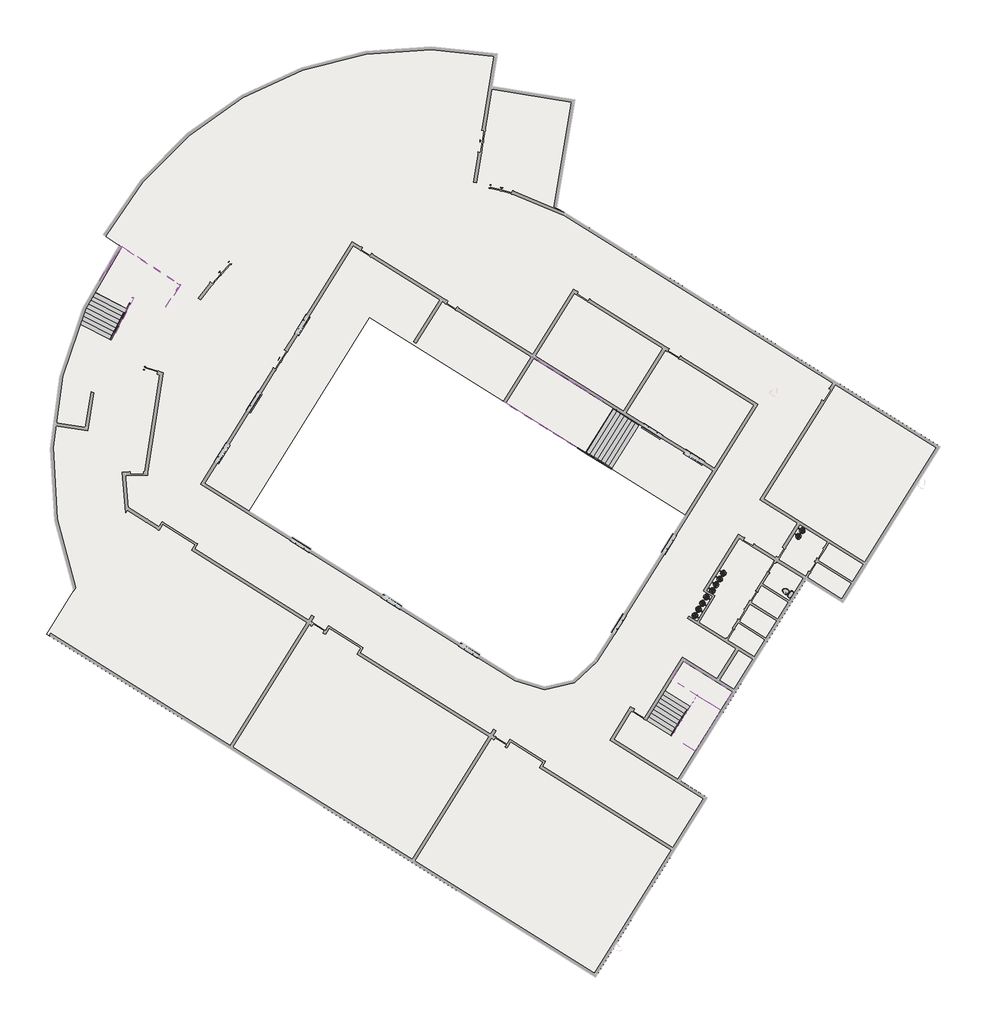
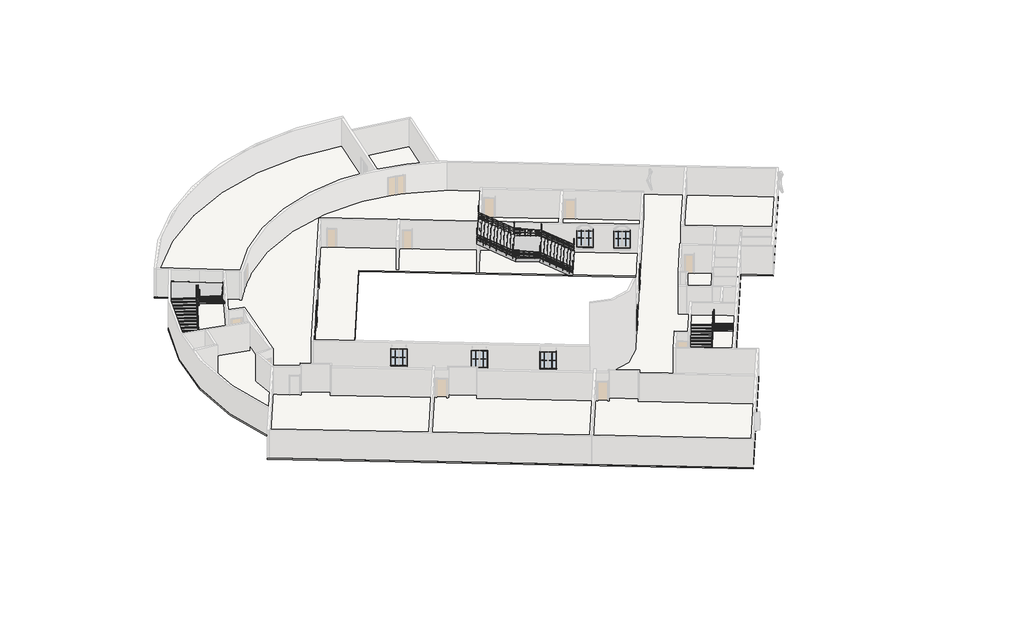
# One storey, part 4 of 4: 40 proxies, 13 members, 11 flow terminals, 4 railings, 4 stair flights, 2 slabs.
"""IFC4 building model written with IfcOpenShell, lengths in millimetres."""

from ifc_helpers import new_model, si_unit, point, frame, frame_2d, origin, place, context, project, spatial, polyline, circle_curve, trimmed, segment, composite_curve, outline, extrude, faceted_brep, transform, mapped, element, save
from components import m_muntin_pattern_2x2_m_muntin_pattern_2x2_d2d4b859, m_muntin_pattern_2x2_m_muntin_pattern_2x2_f3921bb5, m_trim_window_exterior_flat_with_sill_136e302d, m_trim_window_exterior_flat_with_sill_88aaac3a, m_trim_window_interior_flat_picture_frame_c6c50358, m_trim_window_interior_flat_picture_frame_896fcfd1, ada_tank_toilet_4267_toilet_domestic_3d_1f2812d0, ada_tank_toilet_4267_toilet_domestic_3d_e2a5b10f, sink_bathroom_modern_shelf_2_sink_bathroom_modern_shelf_2_e763d6b9, railing_900mm_pipe_284fd88e, railing_900mm_pipe_41d44f0b, railing_900mm_pipe_62cea771, railing_900mm_pipe_8710e27b, railing_900mm_pipe_0febacbe, railing_900mm_pipe_e5f11df8, non_monolithic_landing_3749a595, stair_flight_50mm_tread_13mm_riser_db3eebb3, stair_flight_50mm_tread_13mm_riser_69ac6ef4, stair_flight_50mm_tread_13mm_riser_3233b498, stair_flight_50mm_tread_13mm_riser_8b8bcc91

model = new_model("IFC4")

# Units and contexts
model_context = context("Model", 3, world=origin())
ifc_project = project(units=[si_unit("LENGTHUNIT", "METRE", prefix="MILLI")], contexts=[model_context])

# Site, building, storey
site = spatial("IfcSite", under=ifc_project)
building = spatial("IfcBuilding", under=site)
storey = spatial("IfcBuildingStorey", under=building, Name="\u200fمنفی", Elevation=-3600.0)

# Proxies
placement = place(None, origin())
m_muntin_pattern_2x2_m_muntin_pattern_2x2_shape = m_muntin_pattern_2x2_m_muntin_pattern_2x2_d2d4b859(model_context)
element("IfcBuildingElementProxy", 1, Name="M_Muntin Pattern_2x2 : M_Muntin Pattern_2x2", ObjectType="M_Muntin Pattern_2x2 : M_Muntin Pattern_2x2", at=placement, inside=storey, context=model_context, shape_type="MappedRepresentation", body=[
    mapped(m_muntin_pattern_2x2_m_muntin_pattern_2x2_shape, transform((47216.1575585, -33860.2772011, -2930.15), x_axis=(0.8480480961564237, -0.5299192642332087, 0.0), y_axis=(0.5299192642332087, 0.8480480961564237, 0.0), z_axis=(0.0, 0.0, 1.0))),
])
element("IfcBuildingElementProxy", 2, Name="M_Muntin Pattern_2x2 : M_Muntin Pattern_2x2", ObjectType="M_Muntin Pattern_2x2 : M_Muntin Pattern_2x2", at=placement, inside=storey, context=model_context, shape_type="MappedRepresentation", body=[
    mapped(m_muntin_pattern_2x2_m_muntin_pattern_2x2_shape, transform((44332.7940316, -32058.5517027, -2930.15), x_axis=(0.8480480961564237, -0.5299192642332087, 0.0), y_axis=(0.5299192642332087, 0.8480480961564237, 0.0), z_axis=(0.0, 0.0, 1.0))),
])
element("IfcBuildingElementProxy", 3, Name="M_Muntin Pattern_2x2 : M_Muntin Pattern_2x2", ObjectType="M_Muntin Pattern_2x2 : M_Muntin Pattern_2x2", at=placement, inside=storey, context=model_context, shape_type="MappedRepresentation", body=[
    mapped(m_muntin_pattern_2x2_m_muntin_pattern_2x2_shape, transform((45987.2074956, -39863.2600625, -2930.15), x_axis=(-0.5299192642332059, -0.8480480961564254, 0.0), y_axis=(0.8480480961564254, -0.5299192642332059, 0.0), z_axis=(0.0, 0.0, 1.0))),
])
element("IfcBuildingElementProxy", 4, Name="M_Muntin Pattern_2x2 : M_Muntin Pattern_2x2", ObjectType="M_Muntin Pattern_2x2 : M_Muntin Pattern_2x2", at=placement, inside=storey, context=model_context, shape_type="MappedRepresentation", body=[
    mapped(m_muntin_pattern_2x2_m_muntin_pattern_2x2_shape, transform((42537.766122, -45383.5201987, -2930.15), x_axis=(-0.5299192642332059, -0.8480480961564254, 0.0), y_axis=(0.8480480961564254, -0.5299192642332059, 0.0), z_axis=(0.0, 0.0, 1.0))),
])
element("IfcBuildingElementProxy", 5, Name="M_Muntin Pattern_2x2 : M_Muntin Pattern_2x2", ObjectType="M_Muntin Pattern_2x2 : M_Muntin Pattern_2x2", at=placement, inside=storey, context=model_context, shape_type="MappedRepresentation", body=[
    mapped(m_muntin_pattern_2x2_m_muntin_pattern_2x2_shape, transform((32197.2718735, -47699.295532, -2930.15), x_axis=(-0.8480480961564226, 0.5299192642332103, 0.0), y_axis=(-0.5299192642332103, -0.8480480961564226, 0.0), z_axis=(0.0, 0.0, 1.0))),
])
element("IfcBuildingElementProxy", 6, Name="M_Muntin Pattern_2x2 : M_Muntin Pattern_2x2", ObjectType="M_Muntin Pattern_2x2 : M_Muntin Pattern_2x2", at=placement, inside=storey, context=model_context, shape_type="MappedRepresentation", body=[
    mapped(m_muntin_pattern_2x2_m_muntin_pattern_2x2_shape, transform((26854.5688677, -44360.8041673, -2930.15), x_axis=(-0.8480480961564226, 0.5299192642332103, 0.0), y_axis=(-0.5299192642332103, -0.8480480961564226, 0.0), z_axis=(0.0, 0.0, 1.0))),
])
element("IfcBuildingElementProxy", 7, Name="M_Muntin Pattern_2x2 : M_Muntin Pattern_2x2", ObjectType="M_Muntin Pattern_2x2 : M_Muntin Pattern_2x2", at=placement, inside=storey, context=model_context, shape_type="MappedRepresentation", body=[
    mapped(m_muntin_pattern_2x2_m_muntin_pattern_2x2_shape, transform((20579.0129561, -40439.401612, -2930.15), x_axis=(-0.8480480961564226, 0.5299192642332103, 0.0), y_axis=(-0.5299192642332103, -0.8480480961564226, 0.0), z_axis=(0.0, 0.0, 1.0))),
])
element("IfcBuildingElementProxy", 8, Name="M_Muntin Pattern_2x2 : M_Muntin Pattern_2x2", ObjectType="M_Muntin Pattern_2x2 : M_Muntin Pattern_2x2", at=placement, inside=storey, context=model_context, shape_type="MappedRepresentation", body=[
    mapped(m_muntin_pattern_2x2_m_muntin_pattern_2x2_shape, transform((14655.6227945, -34094.2649616, -2930.15), x_axis=(0.5299192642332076, 0.8480480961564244, 0.0), y_axis=(-0.8480480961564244, 0.5299192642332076, 0.0), z_axis=(0.0, 0.0, 1.0))),
])
element("IfcBuildingElementProxy", 9, Name="M_Muntin Pattern_2x2 : M_Muntin Pattern_2x2", ObjectType="M_Muntin Pattern_2x2 : M_Muntin Pattern_2x2", at=placement, inside=storey, context=model_context, shape_type="MappedRepresentation", body=[
    mapped(m_muntin_pattern_2x2_m_muntin_pattern_2x2_shape, transform((16855.8475796, -30573.1692664, -2930.15), x_axis=(0.5299192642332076, 0.8480480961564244, 0.0), y_axis=(-0.8480480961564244, 0.5299192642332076, 0.0), z_axis=(0.0, 0.0, 1.0))),
])
element("IfcBuildingElementProxy", 10, Name="M_Muntin Pattern_2x2 : M_Muntin Pattern_2x2", ObjectType="M_Muntin Pattern_2x2 : M_Muntin Pattern_2x2", at=placement, inside=storey, context=model_context, shape_type="MappedRepresentation", body=[
    mapped(m_muntin_pattern_2x2_m_muntin_pattern_2x2_shape, transform((20174.2020122, -25262.6920883, -2930.15), x_axis=(0.5299192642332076, 0.8480480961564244, 0.0), y_axis=(-0.8480480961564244, 0.5299192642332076, 0.0), z_axis=(0.0, 0.0, 1.0))),
])
m_muntin_pattern_2x2_m_muntin_pattern_2x2_2_shape = m_muntin_pattern_2x2_m_muntin_pattern_2x2_f3921bb5(model_context)
element("IfcBuildingElementProxy", 11, Name="M_Muntin Pattern_2x2 : M_Muntin Pattern_2x2", ObjectType="M_Muntin Pattern_2x2 : M_Muntin Pattern_2x2", at=placement, inside=storey, context=model_context, shape_type="MappedRepresentation", body=[
    mapped(m_muntin_pattern_2x2_m_muntin_pattern_2x2_2_shape, transform((47807.0986731, -34229.5381924, -2930.15), x_axis=(-0.8480480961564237, 0.5299192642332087, 0.0), y_axis=(-0.5299192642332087, -0.8480480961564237, 0.0), z_axis=(0.0, 0.0, 1.0))),
])
element("IfcBuildingElementProxy", 12, Name="M_Muntin Pattern_2x2 : M_Muntin Pattern_2x2", ObjectType="M_Muntin Pattern_2x2 : M_Muntin Pattern_2x2", at=placement, inside=storey, context=model_context, shape_type="MappedRepresentation", body=[
    mapped(m_muntin_pattern_2x2_m_muntin_pattern_2x2_2_shape, transform((44923.7351462, -32427.812694, -2930.15), x_axis=(-0.8480480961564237, 0.5299192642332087, 0.0), y_axis=(-0.5299192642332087, -0.8480480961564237, 0.0), z_axis=(0.0, 0.0, 1.0))),
])
element("IfcBuildingElementProxy", 13, Name="M_Muntin Pattern_2x2 : M_Muntin Pattern_2x2", ObjectType="M_Muntin Pattern_2x2 : M_Muntin Pattern_2x2", at=placement, inside=storey, context=model_context, shape_type="MappedRepresentation", body=[
    mapped(m_muntin_pattern_2x2_m_muntin_pattern_2x2_2_shape, transform((45617.9465043, -40454.2011771, -2930.15), x_axis=(0.5299192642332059, 0.8480480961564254, 0.0), y_axis=(-0.8480480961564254, 0.5299192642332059, 0.0), z_axis=(0.0, 0.0, 1.0))),
])
element("IfcBuildingElementProxy", 14, Name="M_Muntin Pattern_2x2 : M_Muntin Pattern_2x2", ObjectType="M_Muntin Pattern_2x2 : M_Muntin Pattern_2x2", at=placement, inside=storey, context=model_context, shape_type="MappedRepresentation", body=[
    mapped(m_muntin_pattern_2x2_m_muntin_pattern_2x2_2_shape, transform((42168.5051307, -45974.4613133, -2930.15), x_axis=(0.5299192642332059, 0.8480480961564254, 0.0), y_axis=(-0.8480480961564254, 0.5299192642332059, 0.0), z_axis=(0.0, 0.0, 1.0))),
])
element("IfcBuildingElementProxy", 15, Name="M_Muntin Pattern_2x2 : M_Muntin Pattern_2x2", ObjectType="M_Muntin Pattern_2x2 : M_Muntin Pattern_2x2", at=placement, inside=storey, context=model_context, shape_type="MappedRepresentation", body=[
    mapped(m_muntin_pattern_2x2_m_muntin_pattern_2x2_2_shape, transform((31606.3307589, -47330.0345407, -2930.15), x_axis=(0.8480480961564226, -0.5299192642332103, 0.0), y_axis=(0.5299192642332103, 0.8480480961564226, 0.0), z_axis=(0.0, 0.0, 1.0))),
])
element("IfcBuildingElementProxy", 16, Name="M_Muntin Pattern_2x2 : M_Muntin Pattern_2x2", ObjectType="M_Muntin Pattern_2x2 : M_Muntin Pattern_2x2", at=placement, inside=storey, context=model_context, shape_type="MappedRepresentation", body=[
    mapped(m_muntin_pattern_2x2_m_muntin_pattern_2x2_2_shape, transform((26263.6277531, -43991.543176, -2930.15), x_axis=(0.8480480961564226, -0.5299192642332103, 0.0), y_axis=(0.5299192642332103, 0.8480480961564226, 0.0), z_axis=(0.0, 0.0, 1.0))),
])
element("IfcBuildingElementProxy", 17, Name="M_Muntin Pattern_2x2 : M_Muntin Pattern_2x2", ObjectType="M_Muntin Pattern_2x2 : M_Muntin Pattern_2x2", at=placement, inside=storey, context=model_context, shape_type="MappedRepresentation", body=[
    mapped(m_muntin_pattern_2x2_m_muntin_pattern_2x2_2_shape, transform((19988.0718415, -40070.1406207, -2930.15), x_axis=(0.8480480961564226, -0.5299192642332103, 0.0), y_axis=(0.5299192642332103, 0.8480480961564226, 0.0), z_axis=(0.0, 0.0, 1.0))),
])
element("IfcBuildingElementProxy", 18, Name="M_Muntin Pattern_2x2 : M_Muntin Pattern_2x2", ObjectType="M_Muntin Pattern_2x2 : M_Muntin Pattern_2x2", at=placement, inside=storey, context=model_context, shape_type="MappedRepresentation", body=[
    mapped(m_muntin_pattern_2x2_m_muntin_pattern_2x2_2_shape, transform((15024.8837858, -33503.323847, -2930.15), x_axis=(-0.5299192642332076, -0.8480480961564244, 0.0), y_axis=(0.8480480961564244, -0.5299192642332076, 0.0), z_axis=(0.0, 0.0, 1.0))),
])
element("IfcBuildingElementProxy", 19, Name="M_Muntin Pattern_2x2 : M_Muntin Pattern_2x2", ObjectType="M_Muntin Pattern_2x2 : M_Muntin Pattern_2x2", at=placement, inside=storey, context=model_context, shape_type="MappedRepresentation", body=[
    mapped(m_muntin_pattern_2x2_m_muntin_pattern_2x2_2_shape, transform((17225.1085709, -29982.2281518, -2930.15), x_axis=(-0.5299192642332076, -0.8480480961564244, 0.0), y_axis=(0.8480480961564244, -0.5299192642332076, 0.0), z_axis=(0.0, 0.0, 1.0))),
])
element("IfcBuildingElementProxy", 20, Name="M_Muntin Pattern_2x2 : M_Muntin Pattern_2x2", ObjectType="M_Muntin Pattern_2x2 : M_Muntin Pattern_2x2", at=placement, inside=storey, context=model_context, shape_type="MappedRepresentation", body=[
    mapped(m_muntin_pattern_2x2_m_muntin_pattern_2x2_2_shape, transform((20543.4630035, -24671.7509736, -2930.15), x_axis=(-0.5299192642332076, -0.8480480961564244, 0.0), y_axis=(0.8480480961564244, -0.5299192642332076, 0.0), z_axis=(0.0, 0.0, 1.0))),
])
m_trim_window_exterior_flat_with_sill_shape = m_trim_window_exterior_flat_with_sill_136e302d(model_context)
element("IfcBuildingElementProxy", 21, Name="M_Trim-Window-Exterior-Flat : with Sill", ObjectType="M_Trim-Window-Exterior-Flat : with Sill", at=placement, inside=storey, context=model_context, shape_type="MappedRepresentation", body=[
    mapped(m_trim_window_exterior_flat_with_sill_shape, transform((45810.6546581, -40163.7781008, -1200.0), x_axis=(0.5299192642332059, 0.8480480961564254, 0.0), y_axis=(0.0, 0.0, 1.0), z_axis=(0.8480480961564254, -0.5299192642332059, 0.0))),
])
element("IfcBuildingElementProxy", 22, Name="M_Trim-Window-Exterior-Flat : with Sill", ObjectType="M_Trim-Window-Exterior-Flat : with Sill", at=placement, inside=storey, context=model_context, shape_type="MappedRepresentation", body=[
    mapped(m_trim_window_exterior_flat_with_sill_shape, transform((42361.2132844, -45684.038237, -1200.0), x_axis=(0.5299192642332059, 0.8480480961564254, 0.0), y_axis=(0.0, 0.0, 1.0), z_axis=(0.8480480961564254, -0.5299192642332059, 0.0))),
])
element("IfcBuildingElementProxy", 23, Name="M_Trim-Window-Exterior-Flat : with Sill", ObjectType="M_Trim-Window-Exterior-Flat : with Sill", at=placement, inside=storey, context=model_context, shape_type="MappedRepresentation", body=[
    mapped(m_trim_window_exterior_flat_with_sill_shape, transform((31896.7538352, -47522.7426945, -1200.0), x_axis=(0.8480480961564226, -0.5299192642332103, 0.0), y_axis=(0.0, 0.0, 1.0), z_axis=(-0.5299192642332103, -0.8480480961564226, 0.0))),
])
element("IfcBuildingElementProxy", 24, Name="M_Trim-Window-Exterior-Flat : with Sill", ObjectType="M_Trim-Window-Exterior-Flat : with Sill", at=placement, inside=storey, context=model_context, shape_type="MappedRepresentation", body=[
    mapped(m_trim_window_exterior_flat_with_sill_shape, transform((26554.0508294, -44184.2513298, -1200.0), x_axis=(0.8480480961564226, -0.5299192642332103, 0.0), y_axis=(0.0, 0.0, 1.0), z_axis=(-0.5299192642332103, -0.8480480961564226, 0.0))),
])
element("IfcBuildingElementProxy", 25, Name="M_Trim-Window-Exterior-Flat : with Sill", ObjectType="M_Trim-Window-Exterior-Flat : with Sill", at=placement, inside=storey, context=model_context, shape_type="MappedRepresentation", body=[
    mapped(m_trim_window_exterior_flat_with_sill_shape, transform((20278.4949178, -40262.8487745, -1200.0), x_axis=(0.8480480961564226, -0.5299192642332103, 0.0), y_axis=(0.0, 0.0, 1.0), z_axis=(-0.5299192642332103, -0.8480480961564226, 0.0))),
])
m_trim_window_exterior_flat_with_sill_2_shape = m_trim_window_exterior_flat_with_sill_88aaac3a(model_context)
element("IfcBuildingElementProxy", 26, Name="M_Trim-Window-Exterior-Flat : with Sill", ObjectType="M_Trim-Window-Exterior-Flat : with Sill", at=placement, inside=storey, context=model_context, shape_type="MappedRepresentation", body=[
    mapped(m_trim_window_exterior_flat_with_sill_2_shape, transform((47516.6755968, -34036.8300387, -1200.0), x_axis=(0.8480480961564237, -0.5299192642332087, 0.0), y_axis=(0.0, 0.0, -1.0), z_axis=(0.5299192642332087, 0.8480480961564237, 0.0))),
])
element("IfcBuildingElementProxy", 27, Name="M_Trim-Window-Exterior-Flat : with Sill", ObjectType="M_Trim-Window-Exterior-Flat : with Sill", at=placement, inside=storey, context=model_context, shape_type="MappedRepresentation", body=[
    mapped(m_trim_window_exterior_flat_with_sill_2_shape, transform((44633.3120699, -32235.1045403, -1200.0), x_axis=(0.8480480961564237, -0.5299192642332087, 0.0), y_axis=(0.0, 0.0, -1.0), z_axis=(0.5299192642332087, 0.8480480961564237, 0.0))),
])
element("IfcBuildingElementProxy", 28, Name="M_Trim-Window-Exterior-Flat : with Sill", ObjectType="M_Trim-Window-Exterior-Flat : with Sill", at=placement, inside=storey, context=model_context, shape_type="MappedRepresentation", body=[
    mapped(m_trim_window_exterior_flat_with_sill_2_shape, transform((14832.175632, -33793.7469233, -1200.0), x_axis=(0.5299192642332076, 0.8480480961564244, 0.0), y_axis=(0.0, 0.0, -1.0), z_axis=(-0.8480480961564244, 0.5299192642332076, 0.0))),
])
element("IfcBuildingElementProxy", 29, Name="M_Trim-Window-Exterior-Flat : with Sill", ObjectType="M_Trim-Window-Exterior-Flat : with Sill", at=placement, inside=storey, context=model_context, shape_type="MappedRepresentation", body=[
    mapped(m_trim_window_exterior_flat_with_sill_2_shape, transform((17032.4004171, -30272.6512281, -1200.0), x_axis=(0.5299192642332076, 0.8480480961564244, 0.0), y_axis=(0.0, 0.0, -1.0), z_axis=(-0.8480480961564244, 0.5299192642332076, 0.0))),
])
element("IfcBuildingElementProxy", 30, Name="M_Trim-Window-Exterior-Flat : with Sill", ObjectType="M_Trim-Window-Exterior-Flat : with Sill", at=placement, inside=storey, context=model_context, shape_type="MappedRepresentation", body=[
    mapped(m_trim_window_exterior_flat_with_sill_2_shape, transform((20350.7548498, -24962.17405, -1200.0), x_axis=(0.5299192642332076, 0.8480480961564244, 0.0), y_axis=(0.0, 0.0, -1.0), z_axis=(-0.8480480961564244, 0.5299192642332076, 0.0))),
])
m_trim_window_interior_flat_picture_frame_shape = m_trim_window_interior_flat_picture_frame_c6c50358(model_context)
element("IfcBuildingElementProxy", 31, Name="M_Trim-Window-Interior-Flat : Picture Frame", ObjectType="M_Trim-Window-Interior-Flat : Picture Frame", at=placement, inside=storey, context=model_context, shape_type="MappedRepresentation", body=[
    mapped(m_trim_window_interior_flat_picture_frame_shape, transform((45641.0450388, -40057.794248, -1200.0), x_axis=(-0.5299192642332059, -0.8480480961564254, 0.0), y_axis=(0.0, 0.0, 1.0), z_axis=(-0.8480480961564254, 0.5299192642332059, 0.0))),
])
element("IfcBuildingElementProxy", 32, Name="M_Trim-Window-Interior-Flat : Picture Frame", ObjectType="M_Trim-Window-Interior-Flat : Picture Frame", at=placement, inside=storey, context=model_context, shape_type="MappedRepresentation", body=[
    mapped(m_trim_window_interior_flat_picture_frame_shape, transform((42191.6036652, -45578.0543841, -1200.0), x_axis=(-0.5299192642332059, -0.8480480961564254, 0.0), y_axis=(0.0, 0.0, 1.0), z_axis=(-0.8480480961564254, 0.5299192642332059, 0.0))),
])
element("IfcBuildingElementProxy", 33, Name="M_Trim-Window-Interior-Flat : Picture Frame", ObjectType="M_Trim-Window-Interior-Flat : Picture Frame", at=placement, inside=storey, context=model_context, shape_type="MappedRepresentation", body=[
    mapped(m_trim_window_interior_flat_picture_frame_shape, transform((32002.737688, -47353.1330752, -1200.0), x_axis=(-0.8480480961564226, 0.5299192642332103, 0.0), y_axis=(0.0, 0.0, 1.0), z_axis=(0.5299192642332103, 0.8480480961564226, 0.0))),
])
element("IfcBuildingElementProxy", 34, Name="M_Trim-Window-Interior-Flat : Picture Frame", ObjectType="M_Trim-Window-Interior-Flat : Picture Frame", at=placement, inside=storey, context=model_context, shape_type="MappedRepresentation", body=[
    mapped(m_trim_window_interior_flat_picture_frame_shape, transform((26660.0346822, -44014.6417106, -1200.0), x_axis=(-0.8480480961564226, 0.5299192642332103, 0.0), y_axis=(0.0, 0.0, 1.0), z_axis=(0.5299192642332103, 0.8480480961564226, 0.0))),
])
element("IfcBuildingElementProxy", 35, Name="M_Trim-Window-Interior-Flat : Picture Frame", ObjectType="M_Trim-Window-Interior-Flat : Picture Frame", at=placement, inside=storey, context=model_context, shape_type="MappedRepresentation", body=[
    mapped(m_trim_window_interior_flat_picture_frame_shape, transform((20384.4787707, -40093.2391552, -1200.0), x_axis=(-0.8480480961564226, 0.5299192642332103, 0.0), y_axis=(0.0, 0.0, 1.0), z_axis=(0.5299192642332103, 0.8480480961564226, 0.0))),
])
m_trim_window_interior_flat_picture_frame_2_shape = m_trim_window_interior_flat_picture_frame_896fcfd1(model_context)
element("IfcBuildingElementProxy", 36, Name="M_Trim-Window-Interior-Flat : Picture Frame", ObjectType="M_Trim-Window-Interior-Flat : Picture Frame", at=placement, inside=storey, context=model_context, shape_type="MappedRepresentation", body=[
    mapped(m_trim_window_interior_flat_picture_frame_2_shape, transform((47410.691744, -34206.4396579, -1200.0), x_axis=(-0.8480480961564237, 0.5299192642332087, 0.0), y_axis=(0.0, 0.0, -1.0), z_axis=(-0.5299192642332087, -0.8480480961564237, 0.0))),
])
element("IfcBuildingElementProxy", 37, Name="M_Trim-Window-Interior-Flat : Picture Frame", ObjectType="M_Trim-Window-Interior-Flat : Picture Frame", at=placement, inside=storey, context=model_context, shape_type="MappedRepresentation", body=[
    mapped(m_trim_window_interior_flat_picture_frame_2_shape, transform((44527.328217, -32404.7141595, -1200.0), x_axis=(-0.8480480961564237, 0.5299192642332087, 0.0), y_axis=(0.0, 0.0, -1.0), z_axis=(-0.5299192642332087, -0.8480480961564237, 0.0))),
])
element("IfcBuildingElementProxy", 38, Name="M_Trim-Window-Interior-Flat : Picture Frame", ObjectType="M_Trim-Window-Interior-Flat : Picture Frame", at=placement, inside=storey, context=model_context, shape_type="MappedRepresentation", body=[
    mapped(m_trim_window_interior_flat_picture_frame_2_shape, transform((15001.7852513, -33899.7307762, -1200.0), x_axis=(-0.5299192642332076, -0.8480480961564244, 0.0), y_axis=(0.0, 0.0, -1.0), z_axis=(0.8480480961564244, -0.5299192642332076, 0.0))),
])
element("IfcBuildingElementProxy", 39, Name="M_Trim-Window-Interior-Flat : Picture Frame", ObjectType="M_Trim-Window-Interior-Flat : Picture Frame", at=placement, inside=storey, context=model_context, shape_type="MappedRepresentation", body=[
    mapped(m_trim_window_interior_flat_picture_frame_2_shape, transform((17202.0100364, -30378.6350809, -1200.0), x_axis=(-0.5299192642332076, -0.8480480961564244, 0.0), y_axis=(0.0, 0.0, -1.0), z_axis=(0.8480480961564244, -0.5299192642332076, 0.0))),
])
element("IfcBuildingElementProxy", 40, Name="M_Trim-Window-Interior-Flat : Picture Frame", ObjectType="M_Trim-Window-Interior-Flat : Picture Frame", at=placement, inside=storey, context=model_context, shape_type="MappedRepresentation", body=[
    mapped(m_trim_window_interior_flat_picture_frame_2_shape, transform((20520.364469, -25068.1579028, -1200.0), x_axis=(-0.5299192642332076, -0.8480480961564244, 0.0), y_axis=(0.0, 0.0, -1.0), z_axis=(0.8480480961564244, -0.5299192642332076, 0.0))),
])

# Flow terminals
ada_tank_toilet_4267_toilet_domestic_3d_shape = ada_tank_toilet_4267_toilet_domestic_3d_1f2812d0(model_context)
ada_tank_toilet_4267_toilet_domestic_3d_2_shape = ada_tank_toilet_4267_toilet_domestic_3d_e2a5b10f(model_context)
element("IfcFlowTerminal", 41, ObjectType="ADA_Tank_Toilet_4267 : Toilet-Domestic-3D", at=placement, inside=storey, context=model_context, shape_type="MappedRepresentation", body=[
    mapped(ada_tank_toilet_4267_toilet_domestic_3d_shape, transform((53818.4403957, -43398.8303799, -3600.0), x_axis=(-0.5299192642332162, -0.8480480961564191, 0.0), y_axis=(0.8480480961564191, -0.5299192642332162, 0.0), z_axis=(0.0, 0.0, 1.0))),
    mapped(ada_tank_toilet_4267_toilet_domestic_3d_2_shape, transform((53818.4403957, -43398.8303799, -3600.0), x_axis=(-0.5299192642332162, -0.8480480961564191, 0.0), y_axis=(0.8480480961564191, -0.5299192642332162, 0.0), z_axis=(0.0, 0.0, 1.0))),
])
sink_bathroom_modern_shelf_2_sink_bathroom_modern_shelf_2_shape = sink_bathroom_modern_shelf_2_sink_bathroom_modern_shelf_2_e763d6b9(model_context)
element("IfcFlowTerminal", 42, ObjectType="Sink Bathroom Modern - Shelf (2) : Sink Bathroom Modern - Shelf (2)", at=placement, inside=storey, context=model_context, shape_type="MappedRepresentation", body=[
    mapped(sink_bathroom_modern_shelf_2_sink_bathroom_modern_shelf_2_shape, transform((48423.6751802, -43152.9748104, -3600.0), x_axis=(0.5299192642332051, 0.8480480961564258, 0.0), y_axis=(-0.8480480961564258, 0.5299192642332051, 0.0), z_axis=(0.0, 0.0, 1.0))),
])
element("IfcFlowTerminal", 43, ObjectType="Sink Bathroom Modern - Shelf (2) : Sink Bathroom Modern - Shelf (2)", at=placement, inside=storey, context=model_context, shape_type="MappedRepresentation", body=[
    mapped(sink_bathroom_modern_shelf_2_sink_bathroom_modern_shelf_2_shape, transform((48672.4432724, -42754.8626427, -3600.0), x_axis=(0.5299192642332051, 0.8480480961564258, 0.0), y_axis=(-0.8480480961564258, 0.5299192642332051, 0.0), z_axis=(0.0, 0.0, 1.0))),
])
element("IfcFlowTerminal", 44, ObjectType="Sink Bathroom Modern - Shelf (2) : Sink Bathroom Modern - Shelf (2)", at=placement, inside=storey, context=model_context, shape_type="MappedRepresentation", body=[
    mapped(sink_bathroom_modern_shelf_2_sink_bathroom_modern_shelf_2_shape, transform((48921.5057201, -42356.2794078, -3600.0), x_axis=(0.5299192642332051, 0.8480480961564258, 0.0), y_axis=(-0.8480480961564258, 0.5299192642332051, 0.0), z_axis=(0.0, 0.0, 1.0))),
])
element("IfcFlowTerminal", 45, ObjectType="Sink Bathroom Modern - Shelf (2) : Sink Bathroom Modern - Shelf (2)", at=placement, inside=storey, context=model_context, shape_type="MappedRepresentation", body=[
    mapped(sink_bathroom_modern_shelf_2_sink_bathroom_modern_shelf_2_shape, transform((49170.5681678, -41957.6961729, -3600.0), x_axis=(0.5299192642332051, 0.8480480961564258, 0.0), y_axis=(-0.8480480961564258, 0.5299192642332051, 0.0), z_axis=(0.0, 0.0, 1.0))),
])
element("IfcFlowTerminal", 46, ObjectType="Sink Bathroom Modern - Shelf (2) : Sink Bathroom Modern - Shelf (2)", at=placement, inside=storey, context=model_context, shape_type="MappedRepresentation", body=[
    mapped(sink_bathroom_modern_shelf_2_sink_bathroom_modern_shelf_2_shape, transform((48603.6166127, -43920.0987445, -3600.0), x_axis=(-0.5299192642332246, -0.8480480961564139, 0.0), y_axis=(0.8480480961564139, -0.5299192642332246, 0.0), z_axis=(0.0, 0.0, 1.0))),
])
element("IfcFlowTerminal", 47, ObjectType="Sink Bathroom Modern - Shelf (2) : Sink Bathroom Modern - Shelf (2)", at=placement, inside=storey, context=model_context, shape_type="MappedRepresentation", body=[
    mapped(sink_bathroom_modern_shelf_2_sink_bathroom_modern_shelf_2_shape, transform((48338.6569806, -44344.1227926, -3600.0), x_axis=(-0.5299192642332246, -0.8480480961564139, 0.0), y_axis=(0.8480480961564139, -0.5299192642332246, 0.0), z_axis=(0.0, 0.0, 1.0))),
])
element("IfcFlowTerminal", 48, ObjectType="Sink Bathroom Modern - Shelf (2) : Sink Bathroom Modern - Shelf (2)", at=placement, inside=storey, context=model_context, shape_type="MappedRepresentation", body=[
    mapped(sink_bathroom_modern_shelf_2_sink_bathroom_modern_shelf_2_shape, transform((48073.6973485, -44768.1468407, -3600.0), x_axis=(-0.5299192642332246, -0.8480480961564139, 0.0), y_axis=(0.8480480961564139, -0.5299192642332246, 0.0), z_axis=(0.0, 0.0, 1.0))),
])
element("IfcFlowTerminal", 49, ObjectType="Sink Bathroom Modern - Shelf (2) : Sink Bathroom Modern - Shelf (2)", at=placement, inside=storey, context=model_context, shape_type="MappedRepresentation", body=[
    mapped(sink_bathroom_modern_shelf_2_sink_bathroom_modern_shelf_2_shape, transform((47809.069349, -45192.3781158, -3600.0), x_axis=(-0.5299192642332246, -0.8480480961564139, 0.0), y_axis=(0.8480480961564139, -0.5299192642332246, 0.0), z_axis=(0.0, 0.0, 1.0))),
])
element("IfcFlowTerminal", 50, ObjectType="Sink Bathroom Modern - Shelf (2) : Sink Bathroom Modern - Shelf (2)", at=placement, inside=storey, context=model_context, shape_type="MappedRepresentation", body=[
    mapped(sink_bathroom_modern_shelf_2_sink_bathroom_modern_shelf_2_shape, transform((54355.292849, -39424.2198016, -3600.0), x_axis=(0.5299192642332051, 0.8480480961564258, 0.0), y_axis=(-0.8480480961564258, 0.5299192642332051, 0.0), z_axis=(0.0, 0.0, 1.0))),
])
element("IfcFlowTerminal", 51, ObjectType="Sink Bathroom Modern - Shelf (2) : Sink Bathroom Modern - Shelf (2)", at=placement, inside=storey, context=model_context, shape_type="MappedRepresentation", body=[
    mapped(sink_bathroom_modern_shelf_2_sink_bathroom_modern_shelf_2_shape, transform((54604.3552966, -39025.6365667, -3600.0), x_axis=(0.5299192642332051, 0.8480480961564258, 0.0), y_axis=(-0.8480480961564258, 0.5299192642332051, 0.0), z_axis=(0.0, 0.0, 1.0))),
])

# Members
element("IfcMember", 52, ObjectType="Stringer - 50mm Width", at=placement, inside=storey, context=model_context, shape_type="SweptSolid", body=[
    extrude(outline(polyline([(47628.1894862, -50523.5547091), (47654.6854494, -50481.1523043), (47698.4607568, -50508.5061523), (47671.9647936, -50550.9085571), (47628.1894862, -50523.5547091)])), frame((0.0, 0.0, -2150.0), z_axis=(0.0, 0.0, 1.0), x_axis=(1.0, 0.0, 0.0)), (0.0, 0.0, 1.0), 400.0),
])
element("IfcMember", 53, ObjectType="Stringer - 50mm Width", at=placement, inside=storey, context=model_context, shape_type="SweptSolid", body=[
    extrude(outline(composite_curve([segment(trimmed(circle_curve(frame_2d((28463.2186017, -34366.1157481)), 25200.0), [point((8007.113091, -19649.1953048))], [point((6525.4431115, -21965.5509809))], True, "CARTESIAN"), True, "CONTINUOUS"), segment(polyline([(6525.4431115, -21965.5509809), (6481.9157792, -21940.9466858)]), True, "CONTINUOUS"), segment(trimmed(circle_curve(frame_2d((28463.2186017, -34366.1157481)), 25250.0), [point((6481.9157792, -21940.9466858))], [point((7965.2325341, -19621.7925296))], False, "CARTESIAN"), True, "CONTINUOUS"), segment(polyline([(7965.2325341, -19621.7925296), (8007.113091, -19649.1953048)]), True, "CONTINUOUS")], self_intersect=False)), frame((0.0, 0.0, -2200.0), z_axis=(0.0, 0.0, 1.0), x_axis=(1.0, 0.0, 0.0)), (0.0, 0.0, 1.0), 400.0),
])
element("IfcMember", 54, ObjectType="Stringer - 50mm Width", at=placement, inside=storey, context=model_context, shape_type="SweptSolid", body=[
    extrude(outline(composite_curve([segment(trimmed(circle_curve(frame_2d((28419.6912693, -34341.5114529)), 25200.0), [point((7965.4819455, -19621.9557214))], [point((7994.7578384, -19581.3592063))], False, "CARTESIAN"), True, "CONTINUOUS"), segment(polyline([(7994.7578384, -19581.3592063), (12039.8088932, -22228.0676747)]), True, "CONTINUOUS"), segment(trimmed(circle_curve(frame_2d((29284.4488792, -34638.3554793)), 21246.0078989), [point((12039.8088932, -22228.0676747))], [point((12010.6232883, -22268.7232659))], True, "CARTESIAN"), True, "CONTINUOUS"), segment(polyline([(12010.6232883, -22268.7232659), (7965.4819455, -19621.9557214)]), True, "CONTINUOUS")], self_intersect=False)), frame((0.0, 0.0, -2150.0), z_axis=(0.0, 0.0, 1.0), x_axis=(1.0, 0.0, 0.0)), (0.0, 0.0, 1.0), 400.0),
])
element("IfcMember", 55, ObjectType="Stringer - 50mm Width", at=placement, inside=storey, context=model_context, shape_type="SweptSolid", body=[
    extrude(outline(composite_curve([segment(trimmed(circle_curve(frame_2d((29284.4488792, -34638.3554793)), 21246.0078989), [point((11036.2547588, -23757.350793))], [point((12039.8088932, -22228.0676747))], False, "CARTESIAN"), True, "CONTINUOUS"), segment(polyline([(12039.8088932, -22228.0676747), (12081.6899002, -22255.4707443)]), True, "CONTINUOUS"), segment(trimmed(circle_curve(frame_2d((29284.4488792, -34638.3554793)), 21196.0078989), [point((12081.6899002, -22255.4707443))], [point((11079.1997539, -23782.9579676))], True, "CARTESIAN"), True, "CONTINUOUS"), segment(polyline([(11079.1997539, -23782.9579676), (11036.2547588, -23757.350793)]), True, "CONTINUOUS")], self_intersect=False)), frame((0.0, 0.0, -2200.0), z_axis=(0.0, 0.0, 1.0), x_axis=(1.0, 0.0, 0.0)), (0.0, 0.0, 1.0), 400.0),
])
element("IfcMember", 56, ObjectType="Stringer - 50mm Width", at=placement, inside=storey, context=model_context, shape_type="Brep", body=[
    faceted_brep([(7282.03561, -26052.1421789, -3600.0), (7237.6463466, -26029.1292848, -3600.0), (7443.8061337, -25631.4704308, -3600.0), (7488.1953971, -25654.4833249, -3600.0), (7282.03561, -26052.1421789, -3376.7431396), (7237.6463466, -26029.1292848, -3376.7431396), (8778.1099044, -23166.3844965, -1751.5401457), (8733.5337757, -23143.7320443, -1751.7431396), (8733.5337757, -23143.7320443, -2198.9537866), (8778.1099044, -23166.3844965, -2198.7507927)], [[[0, 1, 2, 3]], [[4, 5, 1, 0]], [[5, 4, 6, 7]], [[1, 5, 7, 8, 2]], [[4, 0, 3, 9, 6]], [[2, 8, 9, 3]], [[6, 9, 8, 7]]]),
])
element("IfcMember", 57, ObjectType="Stringer - 50mm Width", at=placement, inside=storey, context=model_context, shape_type="SweptSolid", body=[
    extrude(outline(polyline([(8733.5337757, -23143.7320443), (8756.5474285, -23099.3413175), (8801.1235572, -23121.9937697), (8778.1099044, -23166.3844965), (8733.5337757, -23143.7320443)])), frame((0.0, 0.0, -2150.0), z_axis=(0.0, 0.0, 1.0), x_axis=(1.0, 0.0, 0.0)), (0.0, 0.0, 1.0), 400.0),
])
element("IfcMember", 58, ObjectType="Stringer - 50mm Width", at=placement, inside=storey, context=model_context, shape_type="Brep", body=[
    faceted_brep([(7282.4093405, -26051.4212951, 73.2568604), (7282.4093405, -26051.4212951, -373.9537866), (7326.7986039, -26074.4341892, -373.9537866), (7326.7986039, -26074.4341892, 73.2568604), (8845.6996858, -23144.6462219, -1576.7431396), (8801.1235572, -23121.9937697, -1576.5401457), (8845.6996858, -23144.6462219, -2023.9537866), (8801.1235572, -23121.9937697, -2023.7507927)], [[[0, 1, 2, 3]], [[4, 5, 0, 3]], [[6, 4, 3, 2]], [[7, 6, 2, 1]], [[5, 7, 1, 0]], [[5, 4, 6, 7]]]),
])
element("IfcMember", 59, ObjectType="Stringer - 50mm Width", at=placement, inside=storey, context=model_context, shape_type="SweptSolid", body=[
    extrude(outline(polyline([(-104.2897474, -199.8886826), (0.0, 0.0), (3342.8309454, 0.0), (3244.7561607, -400.0), (279.2569442, -399.9999999), (-104.2897474, -199.8886826)])), frame((41745.0748064, -34970.1704462, -3374.5408311), z_axis=(0.5299192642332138, 0.8480480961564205, 0.0), x_axis=(-0.7518665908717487, 0.469818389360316, 0.4625660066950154)), (0.0, 0.0, 1.0), 50.0),
])
element("IfcMember", 60, ObjectType="Stringer - 50mm Width", at=placement, inside=storey, context=model_context, shape_type="SweptSolid", body=[
    extrude(outline(polyline([(61.7780443, -400.0), (-36.2967404, 0.0), (2163.7032595, 0.0), (2261.7780443, -400.0), (61.7780443, -400.0)])), frame((39200.930518, -33380.4126535, -1828.2608696), z_axis=(0.5299192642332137, 0.8480480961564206, 0.0), x_axis=(-0.8480480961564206, 0.5299192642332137, 0.0)), (0.0, 0.0, 1.0), 50.0),
])
element("IfcMember", 61, ObjectType="Stringer - 50mm Width", at=placement, inside=storey, context=model_context, shape_type="SweptSolid", body=[
    extrude(outline(polyline([(-477.3918258, -400.0000001), (-379.317041, -1e-07), (3722.1479865, 0.0), (3513.4523343, -400.0), (-477.3918258, -400.0000001)])), frame((37080.8102776, -32055.614493, -1652.8017006), z_axis=(0.5299192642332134, 0.8480480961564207, 0.0), x_axis=(-0.7518665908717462, 0.4698183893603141, 0.46256600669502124)), (0.0, 0.0, 1.0), 50.0),
])
element("IfcMember", 62, ObjectType="Stringer - 50mm Width", at=placement, inside=storey, context=model_context, shape_type="SweptSolid", body=[
    extrude(outline(polyline([(-104.2897474, -199.8886826), (0.0, 0.0), (3342.8309454, 0.0), (3244.7561607, -400.0), (279.2569443, -400.0), (-104.2897474, -199.8886826)])), frame((43679.2801209, -31874.7948953, -3374.5408311), z_axis=(0.5299192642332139, 0.8480480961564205, 0.0), x_axis=(-0.7518665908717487, 0.469818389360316, 0.46256600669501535)), (0.0, 0.0, 1.0), 50.0),
])
element("IfcMember", 63, ObjectType="Stringer - 50mm Width", at=placement, inside=storey, context=model_context, shape_type="SweptSolid", body=[
    extrude(outline(polyline([(61.7780443, -400.0), (-36.2967405, 0.0), (2163.7032595, 0.0), (2261.7780443, -400.0), (61.7780443, -400.0)])), frame((41135.1358324, -30285.0371026, -1828.2608696), z_axis=(0.5299192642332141, 0.8480480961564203, 0.0), x_axis=(-0.8480480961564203, 0.5299192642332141, 0.0)), (0.0, 0.0, 1.0), 50.0),
])
element("IfcMember", 64, ObjectType="Stringer - 50mm Width", at=placement, inside=storey, context=model_context, shape_type="SweptSolid", body=[
    extrude(outline(polyline([(-477.3918258, -400.0000001), (-379.3170411, 0.0), (3722.1479865, 0.0), (3513.4523343, -400.0), (-477.3918258, -400.0000001)])), frame((39015.015592, -28960.238942, -1652.8017006), z_axis=(0.5299192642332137, 0.8480480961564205, 0.0), x_axis=(-0.751866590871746, 0.4698183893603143, 0.4625660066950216)), (0.0, 0.0, 1.0), 50.0),
])

# Railings
railing_900mm_pipe_shape = railing_900mm_pipe_284fd88e(model_context)
railing_900mm_pipe_2_shape = railing_900mm_pipe_41d44f0b(model_context)
railing_900mm_pipe_3_shape = railing_900mm_pipe_62cea771(model_context)
element("IfcRailing", 65, ObjectType="900mm Pipe", at=placement, inside=storey, context=model_context, shape_type="MappedRepresentation", body=[
    mapped(railing_900mm_pipe_shape, transform((0.0, 0.0, 0.0), x_axis=(1.0, 0.0, 0.0), y_axis=(0.0, 1.0, 0.0), z_axis=(0.0, 0.0, 1.0))),
    mapped(railing_900mm_pipe_2_shape, transform((0.0, 0.0, 0.0), x_axis=(1.0, 0.0, 0.0), y_axis=(0.0, 1.0, 0.0), z_axis=(0.0, 0.0, 1.0))),
    mapped(railing_900mm_pipe_3_shape, transform((0.0, 0.0, 0.0), x_axis=(1.0, 0.0, 0.0), y_axis=(0.0, 1.0, 0.0), z_axis=(0.0, 0.0, 1.0))),
])
railing_900mm_pipe_4_shape = railing_900mm_pipe_8710e27b(model_context)
element("IfcRailing", 66, ObjectType="900mm Pipe", at=placement, inside=storey, context=model_context, shape_type="MappedRepresentation", body=[
    mapped(railing_900mm_pipe_4_shape, transform((0.0, 0.0, 0.0), x_axis=(1.0, 0.0, 0.0), y_axis=(0.0, 1.0, 0.0), z_axis=(0.0, 0.0, 1.0))),
])
railing_900mm_pipe_5_shape = railing_900mm_pipe_0febacbe(model_context)
element("IfcRailing", 67, ObjectType="900mm Pipe", at=placement, inside=storey, context=model_context, shape_type="MappedRepresentation", body=[
    mapped(railing_900mm_pipe_5_shape, transform((0.0, 0.0, 0.0), x_axis=(1.0, 0.0, 0.0), y_axis=(0.0, 1.0, 0.0), z_axis=(0.0, 0.0, 1.0))),
])
railing_900mm_pipe_6_shape = railing_900mm_pipe_e5f11df8(model_context)
element("IfcRailing", 68, ObjectType="900mm Pipe", at=placement, inside=storey, context=model_context, shape_type="MappedRepresentation", body=[
    mapped(railing_900mm_pipe_6_shape, transform((0.0, 0.0, 0.0), x_axis=(1.0, 0.0, 0.0), y_axis=(0.0, 1.0, 0.0), z_axis=(0.0, 0.0, 1.0))),
])

# Slabs
element("IfcSlab", 69, ObjectType="Generic 150mm", at=placement, inside=storey, context=model_context, shape_type="SweptSolid", body=[
    extrude(outline(composite_curve([segment(trimmed(circle_curve(frame_2d((28884.769737, -31239.4123864)), 25400.0), [point((6730.8289197, -18815.1254345))], [point((33911.4866879, -6341.7796335))], False, "CARTESIAN"), True, "CONTINUOUS"), segment(polyline([(33911.4866879, -6341.7796335), (33545.4235237, -8578.5085073), (39236.3020104, -9517.4691243), (37988.0441018, -16983.582705)]), True, "CONTINUOUS"), segment(trimmed(circle_curve(frame_2d((29284.4488792, -34638.3554793)), 19683.5863478), [point((37988.0441018, -16983.582705))], [point((38637.861393, -17319.0816534))], False, "CARTESIAN"), True, "CONTINUOUS"), segment(polyline([(38637.861393, -17319.0816534), (64408.9561815, -33422.6489519), (57693.6072975, -44169.4536456), (55149.463009, -42579.6958529), (46503.9173044, -56415.4611664), (48383.4012778, -57589.8930988), (40650.0642018, -69965.8194463), (2827.1191132, -46331.4202615), (4699.4334687, -43335.0909491)]), True, "CONTINUOUS"), segment(trimmed(circle_curve(frame_2d((28463.2186017, -34366.1157481)), 25400.0), [point((4699.4334687, -43335.0909491))], [point((7839.1778843, -19540.1606528))], False, "CARTESIAN"), True, "CONTINUOUS"), segment(polyline([(7839.1778843, -19540.1606528), (6730.8289197, -18815.1254345)]), True, "CONTINUOUS")], self_intersect=False), holes=[composite_curve([segment(polyline([(16806.6132688, -37857.5406578), (35225.3204534, -49366.8262793)]), True, "CONTINUOUS"), segment(trimmed(circle_curve(frame_2d((37292.0055839, -46059.4387043)), 3900.0), [point((35225.3204534, -49366.8262793))], [point((40599.3931589, -48126.1238348))], True, "CARTESIAN"), True, "CONTINUOUS"), segment(polyline([(40599.3931589, -48126.1238348), (46850.5276701, -38122.2174309), (25100.771805, -24531.4615793), (16806.6132688, -37857.5406578)]), True, "CONTINUOUS")], self_intersect=False)]), frame((0.0, 0.0, -3750.0), z_axis=(0.0, 0.0, 1.0), x_axis=(1.0, 0.0, 0.0)), (0.0, 0.0, 1.0), 150.0),
])
non_monolithic_landing_shape = non_monolithic_landing_3749a595(model_context)
element("IfcSlab", 70, ObjectType="Non-Monolithic Landing", at=placement, inside=storey, context=model_context, shape_type="MappedRepresentation", body=[
    mapped(non_monolithic_landing_shape, transform((0.0, 0.0, 0.0), x_axis=(1.0, 0.0, 0.0), y_axis=(0.0, 1.0, 0.0), z_axis=(0.0, 0.0, 1.0))),
])

# Stair flights
stair_flight_50mm_tread_13mm_riser_shape = stair_flight_50mm_tread_13mm_riser_db3eebb3(model_context)
element("IfcStairFlight", 71, ObjectType="50mm Tread 13mm Riser", at=placement, inside=storey, context=model_context, shape_type="MappedRepresentation", body=[
    mapped(stair_flight_50mm_tread_13mm_riser_shape, transform((0.0, 0.0, 0.0), x_axis=(1.0, 0.0, 0.0), y_axis=(0.0, 1.0, 0.0), z_axis=(0.0, 0.0, 1.0))),
])
stair_flight_50mm_tread_13mm_riser_2_shape = stair_flight_50mm_tread_13mm_riser_69ac6ef4(model_context)
element("IfcStairFlight", 72, ObjectType="50mm Tread 13mm Riser", at=placement, inside=storey, context=model_context, shape_type="MappedRepresentation", body=[
    mapped(stair_flight_50mm_tread_13mm_riser_2_shape, transform((0.0, 0.0, 0.0), x_axis=(1.0, 0.0, 0.0), y_axis=(0.0, 1.0, 0.0), z_axis=(0.0, 0.0, 1.0))),
])
stair_flight_50mm_tread_13mm_riser_3_shape = stair_flight_50mm_tread_13mm_riser_3233b498(model_context)
element("IfcStairFlight", 73, ObjectType="50mm Tread 13mm Riser", at=placement, inside=storey, context=model_context, shape_type="MappedRepresentation", body=[
    mapped(stair_flight_50mm_tread_13mm_riser_3_shape, transform((0.0, 0.0, 0.0), x_axis=(1.0, 0.0, 0.0), y_axis=(0.0, 1.0, 0.0), z_axis=(0.0, 0.0, 1.0))),
])
stair_flight_50mm_tread_13mm_riser_4_shape = stair_flight_50mm_tread_13mm_riser_8b8bcc91(model_context)
element("IfcStairFlight", 74, ObjectType="50mm Tread 13mm Riser", at=placement, inside=storey, context=model_context, shape_type="MappedRepresentation", body=[
    mapped(stair_flight_50mm_tread_13mm_riser_4_shape, transform((0.0, 0.0, 0.0), x_axis=(1.0, 0.0, 0.0), y_axis=(0.0, 1.0, 0.0), z_axis=(0.0, 0.0, 1.0))),
])

save(model, "model.ifc")
